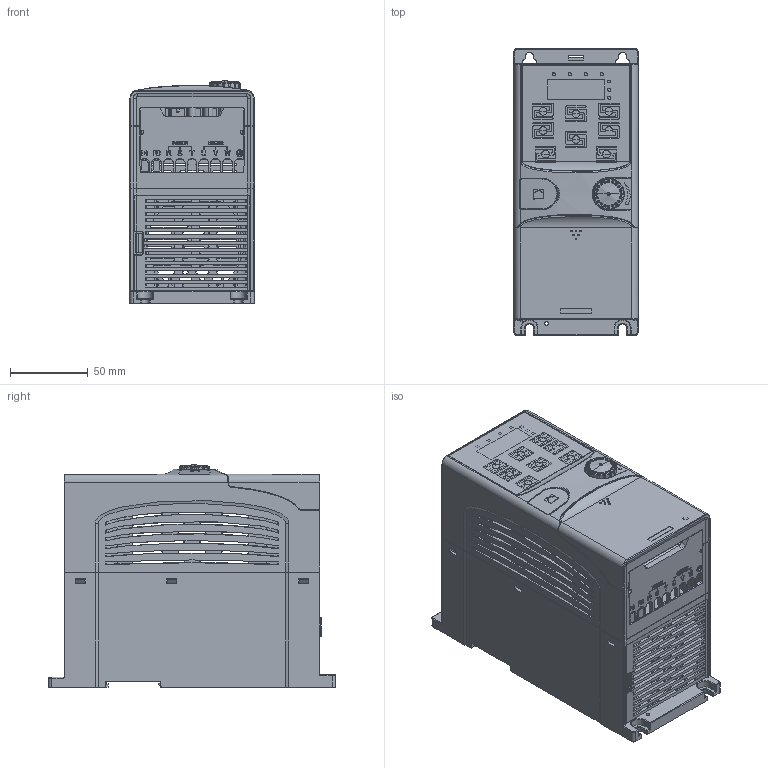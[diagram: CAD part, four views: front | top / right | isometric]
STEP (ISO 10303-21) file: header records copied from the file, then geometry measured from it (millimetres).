
FILE_DESCRIPTION((''),'2;1');
FILE_NAME('GD20-2R2G-4_ASM_ASM_ASM','2016-12-13T',('Administrator'),(''),'PRO/ENGINEER BY PARAMETRIC TECHNOLOGY CORPORATION, 2010280','PRO/ENGINEER BY PARAMETRIC TECHNOLOGY CORPORATION, 2010280','');
FILE_SCHEMA(('CONFIG_CONTROL_DESIGN'));
Products named in the file (14): MSBR-13; MSBR-12; MSBR-10; MSBR-9; MSBR-8; MSBR-7; MSBR-6; MSBR-5; MSBR-4; MSBR-3; MSBR-2; MSBR-1; ASM0001_ASM; GD20-2R2G-4_ASM_ASM_ASM
Assembly tree (13 placements, depth 3):
  GD20-2R2G-4_ASM_ASM_ASM
    ASM0001_ASM
      MSBR-13
      MSBR-12
      MSBR-10
      MSBR-9
      MSBR-8
      MSBR-7
      MSBR-6
      MSBR-5
      MSBR-4
      MSBR-3
      MSBR-2
      MSBR-1
Bounding box: 80 x 185 x 143.54 mm (x, y, z)
Volume: 244234.9 mm3; surface area: 264926.8 mm2
Topology: 12 solids, 12 shells, 5474 faces, 16328 edges, 10857 vertices
Faces by surface type: plane 3056, cylinder 1246, extrusion 730, bspline 202, torus 85, cone 69, sphere 66, revolution 20
Entity records: 212189 total; most frequent: CARTESIAN_POINT 67431, ORIENTED_EDGE 32484, DIRECTION 26567, EDGE_CURVE 16242, VECTOR 10925, VERTEX_POINT 10857, LINE 10195, AXIS2_PLACEMENT_3D 7811
